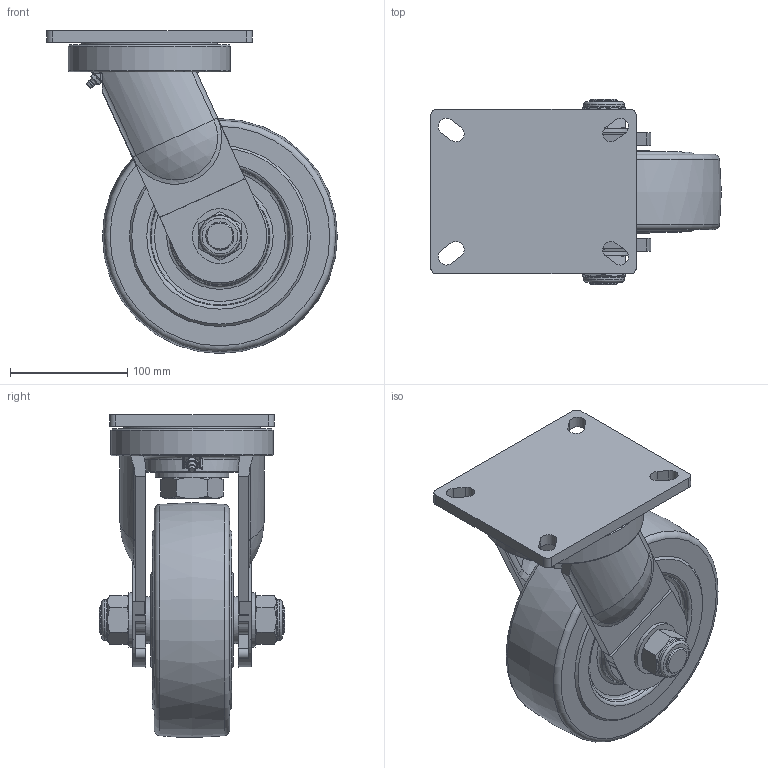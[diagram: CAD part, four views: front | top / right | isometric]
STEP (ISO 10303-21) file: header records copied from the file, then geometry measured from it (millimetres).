
FILE_DESCRIPTION((''),'2;1');
FILE_NAME('C:\Documents and Settings\Administrator\바탕 화면\3D STEP\GXT-SERIES\GXT-200\GXT-200-SF-HUD\GXT-200-SF(HUD).stp','2010-12-27T14:42:28',('Administrator'),(''),'Autodesk Inventor 2009','Autodesk Inventor 2009','');
FILE_SCHEMA(('AUTOMOTIVE_DESIGN { 1 0 10303 214 1 1 1 1 }'));
Length unit declared in the file: millimetre
Products named in the file (1): GXT-200-SF(HUD)
Bounding box: 247.5 x 158 x 274.98 mm (x, y, z)
Volume: 2926032.2 mm3; surface area: 330532.3 mm2
Topology: 11 solids, 11 shells, 429 faces, 1056 edges, 660 vertices
Faces by surface type: plane 197, cylinder 123, bspline 42, cone 38, torus 25, sphere 4
Full cylindrical faces by diameter (mm): 5 x1, 6 x1, 22 x2, 24 x6, 24.3 x2, 24.5 x2, 26 x2, 30 x6, 30.5 x1, 34.4 x2, 35 x3, 40 x2, 40.667 x4, 46.7 x2, 48.5 x1, 51.333 x4, 55 x3, 56 x1, 57 x1, 62 x3, 62.5 x1, 78 x2, 80 x1, 138 x1
Entity records: 13704 total; most frequent: CARTESIAN_POINT 4196, DIRECTION 1989, ORIENTED_EDGE 1792, EDGE_CURVE 896, AXIS2_PLACEMENT_3D 795, VERTEX_POINT 631, EDGE_LOOP 628, FACE_OUTER_BOUND 429
